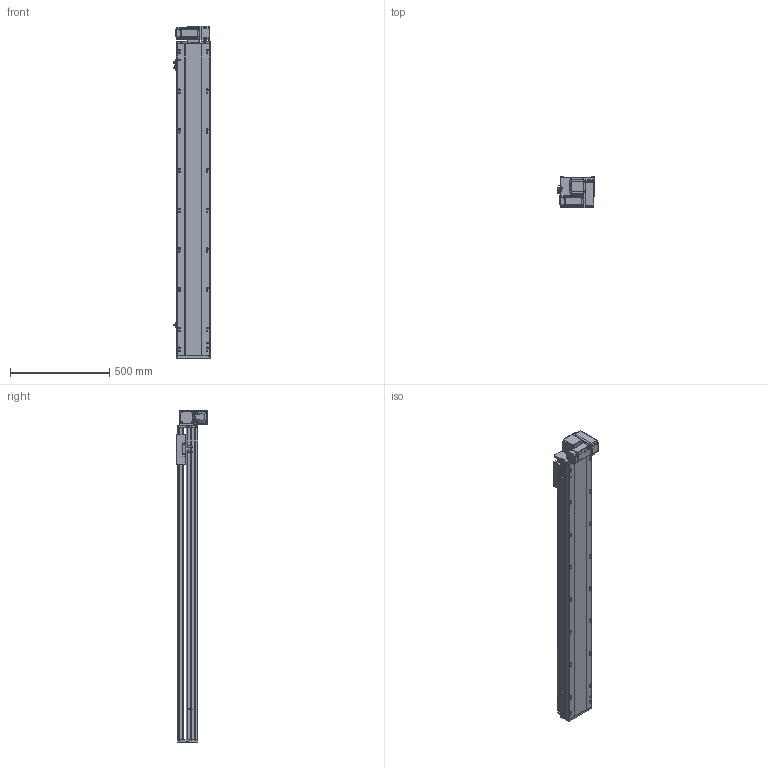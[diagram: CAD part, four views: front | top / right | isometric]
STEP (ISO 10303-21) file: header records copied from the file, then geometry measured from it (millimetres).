
FILE_DESCRIPTION (( 'STEP AP214' ), '1' );
FILE_NAME ('RTB17S-XX-1300-RM-M40-C4.STEP', '2025-12-11T08:18:13', ( '' ), ( '' ), 'SwSTEP 2.0', 'SolidWorks 2018', '' );
FILE_SCHEMA (( 'AUTOMOTIVE_DESIGN' ));
Length unit declared in the file: millimetre
Products named in the file (14): OMRON EE-SX672 传感器^RTB17S-XX-XX-RM-M40-C4; 400W侜督萇儂^RTB17S-XX-XX-RM-M40-C4; RTB17S-RM-々湍釱蚾饜-400W^RTB17S-XX-XX-RM-M40-C4; RTB17S-XX-1300-RM-M40-C4; RTB17-R-011菁釱^RTB17S-XX-XX-RM-M40-C4; RTB17S-L-001耜醱啣^RTB17S-XX-XX-RM-M40-C4; RTB14-L-008-M20--萇儂啣^RTB17S-RM-々湍釱蚾饜-400W_RTB17S-XX-XX-RM-M40-C4; RTB17S-L-007奻裔^RTB17S-XX-XX-RM-M40-C4; RTB14-L-005P--轴承塑胶压盖^RTB17S-RM-皮带座装配-400W_RTB17S-XX-XX-RM-M40-C4; RTB14-L-017P^RTB17S-RM-々湍釱蚾饜-400W_RTB17S-XX-XX-RM-M40-C4; RTB17S-L-004佪裝蹟譫蟀諉釱^RTB17S-XX-XX-RM-M40-C4; RTB17S-L-014-T20--々湍釱^RTB17S-RM-々湍釱蚾饜-400W_RTB17S-XX-XX-RM-M40-C4; RTH13-BL-012覜茼え俋离^RTB17S-XX-XX-RM-M40-C4; RTB14-L-018P^RTB17S-RM-々湍釱蚾饜-400W_RTB17S-XX-XX-RM-M40-C4
Assembly tree (16 placements, depth 3):
  RTB17S-XX-1300-RM-M40-C4
    RTB17-R-011菁釱^RTB17S-XX-XX-RM-M40-C4
    RTB17S-L-007奻裔^RTB17S-XX-XX-RM-M40-C4
    OMRON EE-SX672 传感器^RTB17S-XX-XX-RM-M40-C4  x3
    RTB17S-L-001耜醱啣^RTB17S-XX-XX-RM-M40-C4
    400W侜督萇儂^RTB17S-XX-XX-RM-M40-C4
    RTB17S-L-004佪裝蹟譫蟀諉釱^RTB17S-XX-XX-RM-M40-C4
    RTH13-BL-012覜茼え俋离^RTB17S-XX-XX-RM-M40-C4
    RTB17S-RM-々湍釱蚾饜-400W^RTB17S-XX-XX-RM-M40-C4
      RTB17S-L-014-T20--々湍釱^RTB17S-RM-々湍釱蚾饜-400W_RTB17S-XX-XX-RM-M40-C4
      RTB14-L-005P--轴承塑胶压盖^RTB17S-RM-皮带座装配-400W_RTB17S-XX-XX-RM-M40-C4
      RTB14-L-008-M20--萇儂啣^RTB17S-RM-々湍釱蚾饜-400W_RTB17S-XX-XX-RM-M40-C4
      RTB14-L-017P^RTB17S-RM-々湍釱蚾饜-400W_RTB17S-XX-XX-RM-M40-C4  x2
      RTB14-L-018P^RTB17S-RM-々湍釱蚾饜-400W_RTB17S-XX-XX-RM-M40-C4
Bounding box: 183.5 x 156.5 x 1672.5 mm (x, y, z)
Volume: 14818216.7 mm3; surface area: 1765751.6 mm2
Topology: 15 solids, 15 shells, 2237 faces, 6195 edges, 4041 vertices
Faces by surface type: plane 1072, cylinder 717, bspline 301, cone 139, torus 8
Entity records: 64169 total; most frequent: CARTESIAN_POINT 18000, ORIENTED_EDGE 9234, DIRECTION 8576, EDGE_CURVE 4617, VERTEX_POINT 3029, AXIS2_PLACEMENT_3D 2959, VECTOR 2658, LINE 2658
